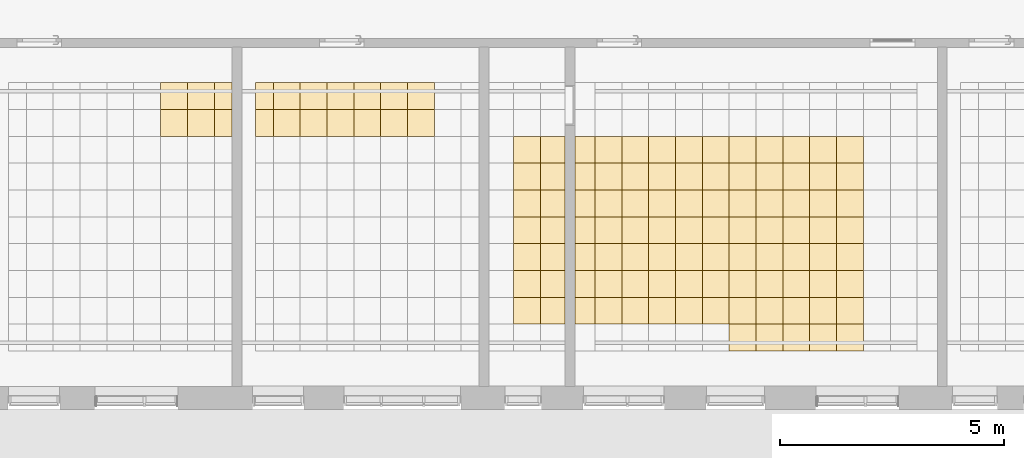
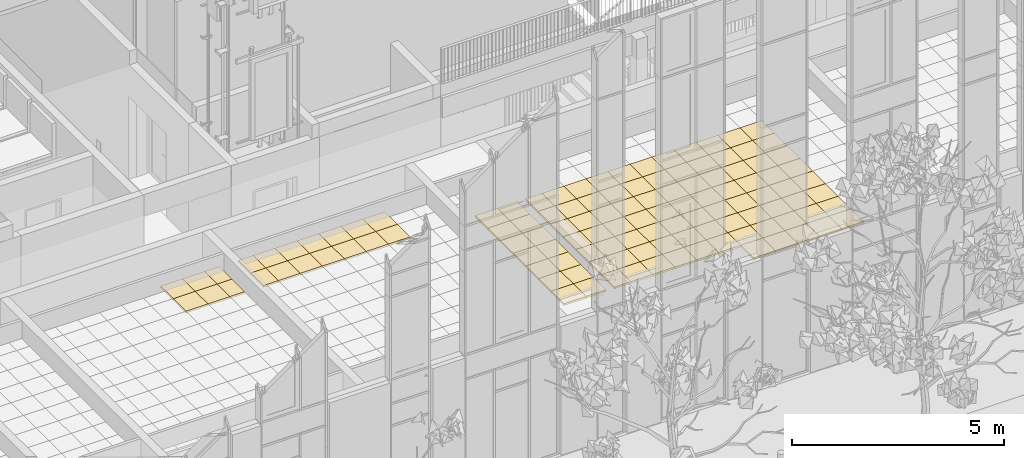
# One storey, part 190 of 246: 116 coverings.
"""IFC2X3 building model written with IfcOpenShell, lengths in millimetres."""

from ifc_helpers import new_model, entity, si_unit, converted_unit, derived_unit, money_unit, direction, frame, origin_with_axes, place, context, subcontext, project, spatial, faceted_brep, material, material_list, type_object, element, save


model = new_model("IFC2X3")

# Units and contexts
model_context = context("Model", 3, precision=0.01, world=origin_with_axes(), true_north=direction((0.0, 1.0)))
body_context = subcontext(model_context, "Body", "Model", "MODEL_VIEW")
ifc_project = project(units=[si_unit("LENGTHUNIT", "METRE", prefix="MILLI"), si_unit("AREAUNIT", "SQUARE_METRE"), si_unit("VOLUMEUNIT", "CUBIC_METRE"), converted_unit("PLANEANGLEUNIT", "DEGREE", entity("IfcPlaneAngleMeasure", 0.0174532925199), si_unit("PLANEANGLEUNIT", "RADIAN"), dimensions=[0, 0, 0, 0, 0, 0, 0]), si_unit("SOLIDANGLEUNIT", "STERADIAN"), money_unit("EUR"), converted_unit("TIMEUNIT", "Year", entity("IfcTimeMeasure", 31556926.0), si_unit("TIMEUNIT", "SECOND"), dimensions=[0, 0, 1, 0, 0, 0, 0]), si_unit("MASSUNIT", "GRAM", prefix="KILO"), si_unit("THERMODYNAMICTEMPERATUREUNIT", "DEGREE_CELSIUS"), si_unit("LUMINOUSINTENSITYUNIT", "LUMEN"), si_unit("ENERGYUNIT", "JOULE", prefix="MEGA"), derived_unit("THERMALCONDUCTANCEUNIT", [(si_unit("POWERUNIT", "WATT"), 1), (si_unit("LENGTHUNIT", "METRE"), -1), (si_unit("THERMODYNAMICTEMPERATUREUNIT", "KELVIN"), -1)]), derived_unit("SPECIFICHEATCAPACITYUNIT", [(si_unit("ENERGYUNIT", "JOULE"), 1), (si_unit("MASSUNIT", "GRAM", prefix="KILO"), -1), (si_unit("THERMODYNAMICTEMPERATUREUNIT", "KELVIN"), -1)]), derived_unit("MASSDENSITYUNIT", [(si_unit("MASSUNIT", "GRAM", prefix="KILO"), 1), (si_unit("VOLUMEUNIT", "CUBIC_METRE"), -1)])], contexts=[model_context])

# Site, building, storey
site_placement = place(None, origin_with_axes())
site = spatial("IfcSite", under=ifc_project, at=site_placement, Name="L.Koidula tn 11b", CompositionType="ELEMENT")
building_placement = place(site_placement, origin_with_axes())
building = spatial("IfcBuilding", under=site, at=building_placement, Name="Rakvere Riigigümnaasium", CompositionType="ELEMENT")
storey_placement = place(building_placement, origin_with_axes())
storey = spatial("IfcBuildingStorey", under=building, at=storey_placement, Name="1.korrus 0,00", CompositionType="ELEMENT", Elevation=0.0)

# Coverings
ifc_material_1 = material(Name="Karkass")
ifc_material_2 = material(Name="Kipsplaat")
ifc_material_list = material_list([ifc_material_1, ifc_material_2])
covering_type = type_object("IfcCoveringType", Name="SA-LV-Kips-moodul 55", PredefinedType="CEILING")
for number, where, z_axis, x_axis, name in (
    (1, (51339.9766386, 6890.4544728, 2750.0), (0.0, 0.0, 1.0), (1.0, 0.0, 0.0), "L-03"),
    (2, (51339.9766386, 10490.4544728, 2750.0), (0.0, 0.0, 1.0), (1.0, 0.0, 0.0), "L-03"),
    (3, (51339.9766386, 9890.4544728, 2750.0), (0.0, 0.0, 1.0), (1.0, 0.0, 0.0), "L-03"),
    (4, (51339.9766386, 9290.4544728, 2750.0), (0.0, 0.0, 1.0), (1.0, 0.0, 0.0), "L-03"),
    (5, (51339.9766386, 8690.4544728, 2750.0), (0.0, 0.0, 1.0), (1.0, 0.0, 0.0), "L-03"),
    (6, (51339.9766386, 8090.4544728, 2750.0), (0.0, 0.0, 1.0), (1.0, 0.0, 0.0), "L-03"),
    (7, (51339.9766386, 7490.4544728, 2750.0), (0.0, 0.0, 1.0), (1.0, 0.0, 0.0), "L-03"),
):
    element("IfcCovering", number, at=place(storey_placement, frame(where, z_axis=z_axis, x_axis=x_axis)), inside=storey, type_object=covering_type, material=ifc_material_list, Name=name, PredefinedType="CEILING", context=body_context, shape_type="Brep", body=[
        faceted_brep([(600.0, 0.0, 12.5), (600.0, 0.0, 54.5), (0.0, 0.0, 54.5), (0.0, 0.0, 12.5), (600.0, 600.0, 12.5), (600.0, 600.0, 54.5), (0.0, 600.0, 54.5), (0.0, 600.0, 12.5)], [[[0, 1, 2, 3]], [[4, 5, 1, 0]], [[2, 1, 5, 6]], [[3, 2, 6, 7]], [[3, 7, 4, 0]], [[7, 6, 5, 4]]]),
        faceted_brep([(0.0, 0.0, 0.0), (600.0, 0.0, 0.0), (600.0, 0.0, 12.5), (0.0, 0.0, 12.5), (0.0, 600.0, 0.0), (600.0, 600.0, 0.0), (600.0, 600.0, 12.5), (0.0, 600.0, 12.5)], [[[0, 1, 2, 3]], [[0, 4, 5, 1]], [[1, 5, 6, 2]], [[3, 2, 6, 7]], [[4, 0, 3, 7]], [[5, 4, 7, 6]]]),
    ])
for number, where, z_axis, x_axis, name in (
    (8, (51939.9766386, 6890.4544728, 2750.0), (0.0, 0.0, 1.0), (1.0, 0.0, 0.0), "L-03"),
    (9, (51939.9766386, 10490.4544728, 2750.0), (0.0, 0.0, 1.0), (1.0, 0.0, 0.0), "L-03"),
    (10, (51939.9766386, 9890.4544728, 2750.0), (0.0, 0.0, 1.0), (1.0, 0.0, 0.0), "L-03"),
    (11, (51939.9766386, 9290.4544728, 2750.0), (0.0, 0.0, 1.0), (1.0, 0.0, 0.0), "L-03"),
    (12, (51939.9766386, 8690.4544728, 2750.0), (0.0, 0.0, 1.0), (1.0, 0.0, 0.0), "L-03"),
    (13, (51939.9766386, 8090.4544728, 2750.0), (0.0, 0.0, 1.0), (1.0, 0.0, 0.0), "L-03"),
    (14, (51939.9766386, 7490.4544728, 2750.0), (0.0, 0.0, 1.0), (1.0, 0.0, 0.0), "L-03"),
):
    element("IfcCovering", number, at=place(storey_placement, frame(where, z_axis=z_axis, x_axis=x_axis)), inside=storey, type_object=covering_type, material=ifc_material_list, Name=name, PredefinedType="CEILING", context=body_context, shape_type="Brep", body=[
        faceted_brep([(550.0, 0.0, 12.5), (550.0, 0.0, 54.5), (0.0, 0.0, 54.5), (0.0, 0.0, 12.5), (550.0, 600.0, 12.5), (550.0, 600.0, 54.5), (0.0, 600.0, 54.5), (0.0, 600.0, 12.5)], [[[0, 1, 2, 3]], [[4, 5, 1, 0]], [[2, 1, 5, 6]], [[3, 2, 6, 7]], [[3, 7, 4, 0]], [[7, 6, 5, 4]]]),
        faceted_brep([(0.0, 0.0, 0.0), (550.0, 0.0, 0.0), (550.0, 0.0, 12.5), (0.0, 0.0, 12.5), (0.0, 600.0, 0.0), (550.0, 600.0, 0.0), (550.0, 600.0, 12.5), (0.0, 600.0, 12.5)], [[[0, 1, 2, 3]], [[0, 4, 5, 1]], [[1, 5, 6, 2]], [[3, 2, 6, 7]], [[4, 0, 3, 7]], [[5, 4, 7, 6]]]),
    ])
for number, where, z_axis, x_axis, name in (
    (15, (44050.0010098, 11090.4535941, 2750.0), (0.0, 0.0, 1.0), (1.0, 0.0, 0.0), "L-03"),
    (16, (44050.0010098, 11690.4535941, 2750.0), (0.0, 0.0, 1.0), (1.0, 0.0, 0.0), "L-03"),
):
    element("IfcCovering", number, at=place(storey_placement, frame(where, z_axis=z_axis, x_axis=x_axis)), inside=storey, type_object=covering_type, material=ifc_material_list, Name=name, PredefinedType="CEILING", context=body_context, shape_type="Brep", body=[
        faceted_brep([(599.999948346, 0.0, 12.5), (599.999948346, 0.0, 54.5), (0.0, 0.0, 54.5), (0.0, 0.0, 12.5), (599.999948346, 600.0, 12.5), (599.999948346, 600.0, 54.5), (0.0, 600.0, 54.5), (0.0, 600.0, 12.5)], [[[0, 1, 2, 3]], [[4, 5, 1, 0]], [[2, 1, 5, 6]], [[3, 2, 6, 7]], [[3, 7, 4, 0]], [[7, 6, 5, 4]]]),
        faceted_brep([(0.0, 0.0, 0.0), (599.999948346, 0.0, 0.0), (599.999948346, 0.0, 12.5), (0.0, 0.0, 12.5), (0.0, 600.0, 0.0), (599.999948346, 600.0, 0.0), (599.999948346, 600.0, 12.5), (0.0, 600.0, 12.5)], [[[0, 1, 2, 3]], [[0, 4, 5, 1]], [[1, 5, 6, 2]], [[3, 2, 6, 7]], [[4, 0, 3, 7]], [[5, 4, 7, 6]]]),
    ])
for number, where, z_axis, x_axis, name in (
    (17, (43450.0010098, 11090.4535941, 2750.0), (0.0, 0.0, 1.0), (1.0, 0.0, 0.0), "L-03"),
    (18, (43450.0010098, 11690.4535941, 2750.0), (0.0, 0.0, 1.0), (1.0, 0.0, 0.0), "L-03"),
):
    element("IfcCovering", number, at=place(storey_placement, frame(where, z_axis=z_axis, x_axis=x_axis)), inside=storey, type_object=covering_type, material=ifc_material_list, Name=name, PredefinedType="CEILING", context=body_context, shape_type="Brep", body=[
        faceted_brep([(600.0, 0.0, 12.5), (600.0, 0.0, 54.5), (0.0, 0.0, 54.5), (0.0, 0.0, 12.5), (600.0, 600.0, 12.5), (600.0, 600.0, 54.5), (0.0, 600.0, 54.5), (0.0, 600.0, 12.5)], [[[0, 1, 2, 3]], [[4, 5, 1, 0]], [[2, 1, 5, 6]], [[3, 2, 6, 7]], [[3, 7, 4, 0]], [[7, 6, 5, 4]]]),
        faceted_brep([(0.0, 0.0, 0.0), (600.0, 0.0, 0.0), (600.0, 0.0, 12.5), (0.0, 0.0, 12.5), (0.0, 600.0, 0.0), (600.0, 600.0, 0.0), (600.0, 600.0, 12.5), (0.0, 600.0, 12.5)], [[[0, 1, 2, 3]], [[0, 4, 5, 1]], [[1, 5, 6, 2]], [[3, 2, 6, 7]], [[4, 0, 3, 7]], [[5, 4, 7, 6]]]),
    ])
for number, where, z_axis, x_axis, name in (
    (19, (44650.0009582, 11090.4535941, 2750.0), (0.0, 0.0, 1.0), (1.0, 0.0, 0.0), "L-03"),
    (20, (44650.0009582, 11690.4535941, 2750.0), (0.0, 0.0, 1.0), (1.0, 0.0, 0.0), "L-03"),
):
    element("IfcCovering", number, at=place(storey_placement, frame(where, z_axis=z_axis, x_axis=x_axis)), inside=storey, type_object=covering_type, material=ifc_material_list, Name=name, PredefinedType="CEILING", context=body_context, shape_type="Brep", body=[
        faceted_brep([(399.999039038, 0.0, 12.5), (399.999039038, 0.0, 54.5), (0.0, 0.0, 54.5), (0.0, 0.0, 12.5), (399.999039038, 600.0, 12.5), (399.999039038, 600.0, 54.5), (0.0, 600.0, 54.5), (0.0, 600.0, 12.5)], [[[0, 1, 2, 3]], [[4, 5, 1, 0]], [[2, 1, 5, 6]], [[3, 2, 6, 7]], [[3, 7, 4, 0]], [[7, 6, 5, 4]]]),
        faceted_brep([(0.0, 0.0, 0.0), (399.999039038, 0.0, 0.0), (399.999039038, 0.0, 12.5), (0.0, 0.0, 12.5), (0.0, 600.0, 0.0), (399.999039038, 600.0, 0.0), (399.999039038, 600.0, 12.5), (0.0, 600.0, 12.5)], [[[0, 1, 2, 3]], [[0, 4, 5, 1]], [[1, 5, 6, 2]], [[3, 2, 6, 7]], [[4, 0, 3, 7]], [[5, 4, 7, 6]]]),
    ])
for number, where, z_axis, x_axis, name in (
    (21, (45969.6842448, 11090.4535941, 2750.0), (0.0, 0.0, 1.0), (1.0, 0.0, 0.0), "L-03"),
    (22, (45969.6842448, 11690.4535941, 2750.0), (0.0, 0.0, 1.0), (1.0, 0.0, 0.0), "L-03"),
):
    element("IfcCovering", number, at=place(storey_placement, frame(where, z_axis=z_axis, x_axis=x_axis)), inside=storey, type_object=covering_type, material=ifc_material_list, Name=name, PredefinedType="CEILING", context=body_context, shape_type="Brep", body=[
        faceted_brep([(599.999948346, 0.0, 12.5), (599.999948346, 0.0, 54.5), (0.0, 0.0, 54.5), (0.0, 0.0, 12.5), (599.999948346, 600.0, 12.5), (599.999948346, 600.0, 54.5), (0.0, 600.0, 54.5), (0.0, 600.0, 12.5)], [[[0, 1, 2, 3]], [[4, 5, 1, 0]], [[2, 1, 5, 6]], [[3, 2, 6, 7]], [[3, 7, 4, 0]], [[7, 6, 5, 4]]]),
        faceted_brep([(0.0, 0.0, 0.0), (599.999948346, 0.0, 0.0), (599.999948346, 0.0, 12.5), (0.0, 0.0, 12.5), (0.0, 600.0, 0.0), (599.999948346, 600.0, 0.0), (599.999948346, 600.0, 12.5), (0.0, 600.0, 12.5)], [[[0, 1, 2, 3]], [[0, 4, 5, 1]], [[1, 5, 6, 2]], [[3, 2, 6, 7]], [[4, 0, 3, 7]], [[5, 4, 7, 6]]]),
    ])
for number, where, z_axis, x_axis, name in (
    (23, (45569.6830772, 11090.4535941, 2750.0), (0.0, 0.0, 1.0), (1.0, 0.0, 0.0), "L-03"),
    (24, (45569.6830772, 11690.4535941, 2750.0), (0.0, 0.0, 1.0), (1.0, 0.0, 0.0), "L-03"),
):
    element("IfcCovering", number, at=place(storey_placement, frame(where, z_axis=z_axis, x_axis=x_axis)), inside=storey, type_object=covering_type, material=ifc_material_list, Name=name, PredefinedType="CEILING", context=body_context, shape_type="Brep", body=[
        faceted_brep([(400.001167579, 0.0, 12.5), (400.001167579, 0.0, 54.5), (0.0, 0.0, 54.5), (0.0, 0.0, 12.5), (400.001167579, 600.0, 12.5), (400.001167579, 600.0, 54.5), (0.0, 600.0, 54.5), (0.0, 600.0, 12.5)], [[[0, 1, 2, 3]], [[4, 5, 1, 0]], [[2, 1, 5, 6]], [[3, 2, 6, 7]], [[3, 7, 4, 0]], [[7, 6, 5, 4]]]),
        faceted_brep([(0.0, 0.0, 0.0), (400.001167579, 0.0, 0.0), (400.001167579, 0.0, 12.5), (0.0, 0.0, 12.5), (0.0, 600.0, 0.0), (400.001167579, 600.0, 0.0), (400.001167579, 600.0, 12.5), (0.0, 600.0, 12.5)], [[[0, 1, 2, 3]], [[0, 4, 5, 1]], [[1, 5, 6, 2]], [[3, 2, 6, 7]], [[4, 0, 3, 7]], [[5, 4, 7, 6]]]),
    ])
for number, where, z_axis, x_axis, name in (
    (25, (47169.6841932, 11090.4535941, 2750.0), (0.0, 0.0, 1.0), (1.0, 0.0, 0.0), "L-03"),
    (26, (47169.6841932, 11690.4535941, 2750.0), (0.0, 0.0, 1.0), (1.0, 0.0, 0.0), "L-03"),
):
    element("IfcCovering", number, at=place(storey_placement, frame(where, z_axis=z_axis, x_axis=x_axis)), inside=storey, type_object=covering_type, material=ifc_material_list, Name=name, PredefinedType="CEILING", context=body_context, shape_type="Brep", body=[
        faceted_brep([(599.999948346, 0.0, 12.5), (599.999948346, 0.0, 54.5), (0.0, 0.0, 54.5), (0.0, 0.0, 12.5), (599.999948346, 600.0, 12.5), (599.999948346, 600.0, 54.5), (0.0, 600.0, 54.5), (0.0, 600.0, 12.5)], [[[0, 1, 2, 3]], [[4, 5, 1, 0]], [[2, 1, 5, 6]], [[3, 2, 6, 7]], [[3, 7, 4, 0]], [[7, 6, 5, 4]]]),
        faceted_brep([(0.0, 0.0, 0.0), (599.999948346, 0.0, 0.0), (599.999948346, 0.0, 12.5), (0.0, 0.0, 12.5), (0.0, 600.0, 0.0), (599.999948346, 600.0, 0.0), (599.999948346, 600.0, 12.5), (0.0, 600.0, 12.5)], [[[0, 1, 2, 3]], [[0, 4, 5, 1]], [[1, 5, 6, 2]], [[3, 2, 6, 7]], [[4, 0, 3, 7]], [[5, 4, 7, 6]]]),
    ])
for number, where, z_axis, x_axis, name in (
    (27, (46569.6841932, 11090.4535941, 2750.0), (0.0, 0.0, 1.0), (1.0, 0.0, 0.0), "L-03"),
    (28, (46569.6841932, 11690.4535941, 2750.0), (0.0, 0.0, 1.0), (1.0, 0.0, 0.0), "L-03"),
):
    element("IfcCovering", number, at=place(storey_placement, frame(where, z_axis=z_axis, x_axis=x_axis)), inside=storey, type_object=covering_type, material=ifc_material_list, Name=name, PredefinedType="CEILING", context=body_context, shape_type="Brep", body=[
        faceted_brep([(600.0, 0.0, 12.5), (600.0, 0.0, 54.5), (0.0, 0.0, 54.5), (0.0, 0.0, 12.5), (600.0, 600.0, 12.5), (600.0, 600.0, 54.5), (0.0, 600.0, 54.5), (0.0, 600.0, 12.5)], [[[0, 1, 2, 3]], [[4, 5, 1, 0]], [[2, 1, 5, 6]], [[3, 2, 6, 7]], [[3, 7, 4, 0]], [[7, 6, 5, 4]]]),
        faceted_brep([(0.0, 0.0, 0.0), (600.0, 0.0, 0.0), (600.0, 0.0, 12.5), (0.0, 0.0, 12.5), (0.0, 600.0, 0.0), (600.0, 600.0, 0.0), (600.0, 600.0, 12.5), (0.0, 600.0, 12.5)], [[[0, 1, 2, 3]], [[0, 4, 5, 1]], [[1, 5, 6, 2]], [[3, 2, 6, 7]], [[4, 0, 3, 7]], [[5, 4, 7, 6]]]),
    ])
for number, where, z_axis, x_axis, name in (
    (29, (48369.6841415, 11090.4535941, 2750.0), (0.0, 0.0, 1.0), (1.0, 0.0, 0.0), "L-03"),
    (30, (48369.6841415, 11690.4535941, 2750.0), (0.0, 0.0, 1.0), (1.0, 0.0, 0.0), "L-03"),
):
    element("IfcCovering", number, at=place(storey_placement, frame(where, z_axis=z_axis, x_axis=x_axis)), inside=storey, type_object=covering_type, material=ifc_material_list, Name=name, PredefinedType="CEILING", context=body_context, shape_type="Brep", body=[
        faceted_brep([(599.999948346, 0.0, 12.5), (599.999948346, 0.0, 54.5), (0.0, 0.0, 54.5), (0.0, 0.0, 12.5), (599.999948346, 600.0, 12.5), (599.999948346, 600.0, 54.5), (0.0, 600.0, 54.5), (0.0, 600.0, 12.5)], [[[0, 1, 2, 3]], [[4, 5, 1, 0]], [[2, 1, 5, 6]], [[3, 2, 6, 7]], [[3, 7, 4, 0]], [[7, 6, 5, 4]]]),
        faceted_brep([(0.0, 0.0, 0.0), (599.999948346, 0.0, 0.0), (599.999948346, 0.0, 12.5), (0.0, 0.0, 12.5), (0.0, 600.0, 0.0), (599.999948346, 600.0, 0.0), (599.999948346, 600.0, 12.5), (0.0, 600.0, 12.5)], [[[0, 1, 2, 3]], [[0, 4, 5, 1]], [[1, 5, 6, 2]], [[3, 2, 6, 7]], [[4, 0, 3, 7]], [[5, 4, 7, 6]]]),
    ])
for number, where, z_axis, x_axis, name in (
    (31, (47769.6841415, 11090.4535941, 2750.0), (0.0, 0.0, 1.0), (1.0, 0.0, 0.0), "L-03"),
    (32, (47769.6841415, 11690.4535941, 2750.0), (0.0, 0.0, 1.0), (1.0, 0.0, 0.0), "L-03"),
    (33, (48969.6840899, 11090.4535941, 2750.0), (0.0, 0.0, 1.0), (1.0, 0.0, 0.0), "L-03"),
    (34, (48969.6840899, 11690.4535941, 2750.0), (0.0, 0.0, 1.0), (1.0, 0.0, 0.0), "L-03"),
):
    element("IfcCovering", number, at=place(storey_placement, frame(where, z_axis=z_axis, x_axis=x_axis)), inside=storey, type_object=covering_type, material=ifc_material_list, Name=name, PredefinedType="CEILING", context=body_context, shape_type="Brep", body=[
        faceted_brep([(600.0, 0.0, 12.5), (600.0, 0.0, 54.5), (0.0, 0.0, 54.5), (0.0, 0.0, 12.5), (600.0, 600.0, 12.5), (600.0, 600.0, 54.5), (0.0, 600.0, 54.5), (0.0, 600.0, 12.5)], [[[0, 1, 2, 3]], [[4, 5, 1, 0]], [[2, 1, 5, 6]], [[3, 2, 6, 7]], [[3, 7, 4, 0]], [[7, 6, 5, 4]]]),
        faceted_brep([(0.0, 0.0, 0.0), (600.0, 0.0, 0.0), (600.0, 0.0, 12.5), (0.0, 0.0, 12.5), (0.0, 600.0, 0.0), (600.0, 600.0, 0.0), (600.0, 600.0, 12.5), (0.0, 600.0, 12.5)], [[[0, 1, 2, 3]], [[0, 4, 5, 1]], [[1, 5, 6, 2]], [[3, 2, 6, 7]], [[4, 0, 3, 7]], [[5, 4, 7, 6]]]),
    ])
for number, where, z_axis, x_axis, name in (
    (35, (53159.6754629, 10490.4535941, 2750.0), (0.0, 0.0, 1.0), (1.0, 0.0, 0.0), "L-03"),
    (36, (53159.6754629, 9890.45359412, 2750.0), (0.0, 0.0, 1.0), (1.0, 0.0, 0.0), "L-03"),
    (37, (53159.6754629, 9290.45359412, 2750.0), (0.0, 0.0, 1.0), (1.0, 0.0, 0.0), "L-03"),
    (38, (53159.6754629, 8690.45359412, 2750.0), (0.0, 0.0, 1.0), (1.0, 0.0, 0.0), "L-03"),
    (39, (53159.6754629, 8090.45359412, 2750.0), (0.0, 0.0, 1.0), (1.0, 0.0, 0.0), "L-03"),
    (40, (53159.6754629, 7490.45359412, 2750.0), (0.0, 0.0, 1.0), (1.0, 0.0, 0.0), "L-03"),
    (41, (53159.6754629, 6890.45359412, 2750.0), (0.0, 0.0, 1.0), (1.0, 0.0, 0.0), "L-03"),
):
    element("IfcCovering", number, at=place(storey_placement, frame(where, z_axis=z_axis, x_axis=x_axis)), inside=storey, type_object=covering_type, material=ifc_material_list, Name=name, PredefinedType="CEILING", context=body_context, shape_type="Brep", body=[
        faceted_brep([(599.999948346, 0.0, 12.5), (599.999948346, 0.0, 54.5), (0.0, 0.0, 54.5), (0.0, 0.0, 12.5), (599.999948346, 600.0, 12.5), (599.999948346, 600.0, 54.5), (0.0, 600.0, 54.5), (0.0, 600.0, 12.5)], [[[0, 1, 2, 3]], [[4, 5, 1, 0]], [[2, 1, 5, 6]], [[3, 2, 6, 7]], [[3, 7, 4, 0]], [[7, 6, 5, 4]]]),
        faceted_brep([(0.0, 0.0, 0.0), (599.999948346, 0.0, 0.0), (599.999948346, 0.0, 12.5), (0.0, 0.0, 12.5), (0.0, 600.0, 0.0), (599.999948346, 600.0, 0.0), (599.999948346, 600.0, 12.5), (0.0, 600.0, 12.5)], [[[0, 1, 2, 3]], [[0, 4, 5, 1]], [[1, 5, 6, 2]], [[3, 2, 6, 7]], [[4, 0, 3, 7]], [[5, 4, 7, 6]]]),
    ])
for number, where, z_axis, x_axis, name in (
    (42, (52709.9766386, 7490.45359412, 2750.0), (0.0, 0.0, 1.0), (1.0, 0.0, 0.0), "L-03"),
    (43, (52709.9766386, 8090.45359412, 2750.0), (0.0, 0.0, 1.0), (1.0, 0.0, 0.0), "L-03"),
    (44, (52709.9766386, 8690.45359412, 2750.0), (0.0, 0.0, 1.0), (1.0, 0.0, 0.0), "L-03"),
    (45, (52709.9766386, 9290.45359412, 2750.0), (0.0, 0.0, 1.0), (1.0, 0.0, 0.0), "L-03"),
    (46, (52709.9766386, 9890.45359412, 2750.0), (0.0, 0.0, 1.0), (1.0, 0.0, 0.0), "L-03"),
    (47, (52709.9766386, 10490.4535941, 2750.0), (0.0, 0.0, 1.0), (1.0, 0.0, 0.0), "L-03"),
    (48, (52709.9766386, 6890.45359412, 2750.0), (0.0, 0.0, 1.0), (1.0, 0.0, 0.0), "L-03"),
):
    element("IfcCovering", number, at=place(storey_placement, frame(where, z_axis=z_axis, x_axis=x_axis)), inside=storey, type_object=covering_type, material=ifc_material_list, Name=name, PredefinedType="CEILING", context=body_context, shape_type="Brep", body=[
        faceted_brep([(449.698824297, 0.0, 12.5), (449.698824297, 0.0, 54.5), (0.0, 0.0, 54.5), (0.0, 0.0, 12.5), (449.698824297, 600.0, 12.5), (449.698824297, 600.0, 54.5), (0.0, 600.0, 54.5), (0.0, 600.0, 12.5)], [[[0, 1, 2, 3]], [[4, 5, 1, 0]], [[2, 1, 5, 6]], [[3, 2, 6, 7]], [[3, 7, 4, 0]], [[7, 6, 5, 4]]]),
        faceted_brep([(0.0, 0.0, 0.0), (449.698824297, 0.0, 0.0), (449.698824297, 0.0, 12.5), (0.0, 0.0, 12.5), (0.0, 600.0, 0.0), (449.698824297, 600.0, 0.0), (449.698824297, 600.0, 12.5), (0.0, 600.0, 12.5)], [[[0, 1, 2, 3]], [[0, 4, 5, 1]], [[1, 5, 6, 2]], [[3, 2, 6, 7]], [[4, 0, 3, 7]], [[5, 4, 7, 6]]]),
    ])
for number, where, z_axis, x_axis, name in (
    (49, (54359.6754112, 10490.4535941, 2750.0), (0.0, 0.0, 1.0), (1.0, 0.0, 0.0), "L-03"),
    (50, (54359.6754112, 9890.45359412, 2750.0), (0.0, 0.0, 1.0), (1.0, 0.0, 0.0), "L-03"),
    (51, (54359.6754112, 9290.45359412, 2750.0), (0.0, 0.0, 1.0), (1.0, 0.0, 0.0), "L-03"),
    (52, (54359.6754112, 8690.45359412, 2750.0), (0.0, 0.0, 1.0), (1.0, 0.0, 0.0), "L-03"),
    (53, (54359.6754112, 8090.45359412, 2750.0), (0.0, 0.0, 1.0), (1.0, 0.0, 0.0), "L-03"),
    (54, (54359.6754112, 7490.45359412, 2750.0), (0.0, 0.0, 1.0), (1.0, 0.0, 0.0), "L-03"),
    (55, (54359.6754112, 6890.45359412, 2750.0), (0.0, 0.0, 1.0), (1.0, 0.0, 0.0), "L-03"),
):
    element("IfcCovering", number, at=place(storey_placement, frame(where, z_axis=z_axis, x_axis=x_axis)), inside=storey, type_object=covering_type, material=ifc_material_list, Name=name, PredefinedType="CEILING", context=body_context, shape_type="Brep", body=[
        faceted_brep([(599.999948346, 0.0, 12.5), (599.999948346, 0.0, 54.5), (0.0, 0.0, 54.5), (0.0, 0.0, 12.5), (599.999948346, 600.0, 12.5), (599.999948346, 600.0, 54.5), (0.0, 600.0, 54.5), (0.0, 600.0, 12.5)], [[[0, 1, 2, 3]], [[4, 5, 1, 0]], [[2, 1, 5, 6]], [[3, 2, 6, 7]], [[3, 7, 4, 0]], [[7, 6, 5, 4]]]),
        faceted_brep([(0.0, 0.0, 0.0), (599.999948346, 0.0, 0.0), (599.999948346, 0.0, 12.5), (0.0, 0.0, 12.5), (0.0, 600.0, 0.0), (599.999948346, 600.0, 0.0), (599.999948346, 600.0, 12.5), (0.0, 600.0, 12.5)], [[[0, 1, 2, 3]], [[0, 4, 5, 1]], [[1, 5, 6, 2]], [[3, 2, 6, 7]], [[4, 0, 3, 7]], [[5, 4, 7, 6]]]),
    ])
for number, where, z_axis, x_axis, name in (
    (56, (53759.6754112, 7490.45359412, 2750.0), (0.0, 0.0, 1.0), (1.0, 0.0, 0.0), "L-03"),
    (57, (53759.6754112, 8090.45359412, 2750.0), (0.0, 0.0, 1.0), (1.0, 0.0, 0.0), "L-03"),
    (58, (53759.6754112, 8690.45359412, 2750.0), (0.0, 0.0, 1.0), (1.0, 0.0, 0.0), "L-03"),
    (59, (53759.6754112, 9290.45359412, 2750.0), (0.0, 0.0, 1.0), (1.0, 0.0, 0.0), "L-03"),
    (60, (53759.6754112, 9890.45359412, 2750.0), (0.0, 0.0, 1.0), (1.0, 0.0, 0.0), "L-03"),
    (61, (53759.6754112, 10490.4535941, 2750.0), (0.0, 0.0, 1.0), (1.0, 0.0, 0.0), "L-03"),
    (62, (53759.6754112, 6890.45359412, 2750.0), (0.0, 0.0, 1.0), (1.0, 0.0, 0.0), "L-03"),
):
    element("IfcCovering", number, at=place(storey_placement, frame(where, z_axis=z_axis, x_axis=x_axis)), inside=storey, type_object=covering_type, material=ifc_material_list, Name=name, PredefinedType="CEILING", context=body_context, shape_type="Brep", body=[
        faceted_brep([(600.0, 0.0, 12.5), (600.0, 0.0, 54.5), (0.0, 0.0, 54.5), (0.0, 0.0, 12.5), (600.0, 600.0, 12.5), (600.0, 600.0, 54.5), (0.0, 600.0, 54.5), (0.0, 600.0, 12.5)], [[[0, 1, 2, 3]], [[4, 5, 1, 0]], [[2, 1, 5, 6]], [[3, 2, 6, 7]], [[3, 7, 4, 0]], [[7, 6, 5, 4]]]),
        faceted_brep([(0.0, 0.0, 0.0), (600.0, 0.0, 0.0), (600.0, 0.0, 12.5), (0.0, 0.0, 12.5), (0.0, 600.0, 0.0), (600.0, 600.0, 0.0), (600.0, 600.0, 12.5), (0.0, 600.0, 12.5)], [[[0, 1, 2, 3]], [[0, 4, 5, 1]], [[1, 5, 6, 2]], [[3, 2, 6, 7]], [[4, 0, 3, 7]], [[5, 4, 7, 6]]]),
    ])
for number, where, z_axis, x_axis, name in (
    (63, (55559.6753595, 10490.4535941, 2750.0), (0.0, 0.0, 1.0), (1.0, 0.0, 0.0), "L-03"),
    (64, (55559.6753595, 9890.45359412, 2750.0), (0.0, 0.0, 1.0), (1.0, 0.0, 0.0), "L-03"),
    (65, (55559.6753595, 9290.45359412, 2750.0), (0.0, 0.0, 1.0), (1.0, 0.0, 0.0), "L-03"),
    (66, (55559.6753595, 8690.45359412, 2750.0), (0.0, 0.0, 1.0), (1.0, 0.0, 0.0), "L-03"),
    (67, (55559.6753595, 8090.45359412, 2750.0), (0.0, 0.0, 1.0), (1.0, 0.0, 0.0), "L-03"),
    (68, (55559.6753595, 7490.45359412, 2750.0), (0.0, 0.0, 1.0), (1.0, 0.0, 0.0), "L-03"),
    (69, (55559.6753595, 6890.45359412, 2750.0), (0.0, 0.0, 1.0), (1.0, 0.0, 0.0), "L-03"),
):
    element("IfcCovering", number, at=place(storey_placement, frame(where, z_axis=z_axis, x_axis=x_axis)), inside=storey, type_object=covering_type, material=ifc_material_list, Name=name, PredefinedType="CEILING", context=body_context, shape_type="Brep", body=[
        faceted_brep([(599.999948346, 0.0, 12.5), (599.999948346, 0.0, 54.5), (0.0, 0.0, 54.5), (0.0, 0.0, 12.5), (599.999948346, 600.0, 12.5), (599.999948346, 600.0, 54.5), (0.0, 600.0, 54.5), (0.0, 600.0, 12.5)], [[[0, 1, 2, 3]], [[4, 5, 1, 0]], [[2, 1, 5, 6]], [[3, 2, 6, 7]], [[3, 7, 4, 0]], [[7, 6, 5, 4]]]),
        faceted_brep([(0.0, 0.0, 0.0), (599.999948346, 0.0, 0.0), (599.999948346, 0.0, 12.5), (0.0, 0.0, 12.5), (0.0, 600.0, 0.0), (599.999948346, 600.0, 0.0), (599.999948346, 600.0, 12.5), (0.0, 600.0, 12.5)], [[[0, 1, 2, 3]], [[0, 4, 5, 1]], [[1, 5, 6, 2]], [[3, 2, 6, 7]], [[4, 0, 3, 7]], [[5, 4, 7, 6]]]),
    ])
for number, where, z_axis, x_axis, name in (
    (70, (54959.6753595, 7490.45359412, 2750.0), (0.0, 0.0, 1.0), (1.0, 0.0, 0.0), "L-03"),
    (71, (54959.6753595, 8090.45359412, 2750.0), (0.0, 0.0, 1.0), (1.0, 0.0, 0.0), "L-03"),
    (72, (54959.6753595, 8690.45359412, 2750.0), (0.0, 0.0, 1.0), (1.0, 0.0, 0.0), "L-03"),
    (73, (54959.6753595, 9290.45359412, 2750.0), (0.0, 0.0, 1.0), (1.0, 0.0, 0.0), "L-03"),
    (74, (54959.6753595, 9890.45359412, 2750.0), (0.0, 0.0, 1.0), (1.0, 0.0, 0.0), "L-03"),
    (75, (54959.6753595, 10490.4535941, 2750.0), (0.0, 0.0, 1.0), (1.0, 0.0, 0.0), "L-03"),
    (76, (54959.6753595, 6890.45359412, 2750.0), (0.0, 0.0, 1.0), (1.0, 0.0, 0.0), "L-03"),
):
    element("IfcCovering", number, at=place(storey_placement, frame(where, z_axis=z_axis, x_axis=x_axis)), inside=storey, type_object=covering_type, material=ifc_material_list, Name=name, PredefinedType="CEILING", context=body_context, shape_type="Brep", body=[
        faceted_brep([(600.0, 0.0, 12.5), (600.0, 0.0, 54.5), (0.0, 0.0, 54.5), (0.0, 0.0, 12.5), (600.0, 600.0, 12.5), (600.0, 600.0, 54.5), (0.0, 600.0, 54.5), (0.0, 600.0, 12.5)], [[[0, 1, 2, 3]], [[4, 5, 1, 0]], [[2, 1, 5, 6]], [[3, 2, 6, 7]], [[3, 7, 4, 0]], [[7, 6, 5, 4]]]),
        faceted_brep([(0.0, 0.0, 0.0), (600.0, 0.0, 0.0), (600.0, 0.0, 12.5), (0.0, 0.0, 12.5), (0.0, 600.0, 0.0), (600.0, 600.0, 0.0), (600.0, 600.0, 12.5), (0.0, 600.0, 12.5)], [[[0, 1, 2, 3]], [[0, 4, 5, 1]], [[1, 5, 6, 2]], [[3, 2, 6, 7]], [[4, 0, 3, 7]], [[5, 4, 7, 6]]]),
    ])
for number, where, z_axis, x_axis, name in (
    (77, (56759.6753079, 10490.4535941, 2750.0), (0.0, 0.0, 1.0), (1.0, 0.0, 0.0), "L-03"),
    (78, (56759.6753079, 9890.45359412, 2750.0), (0.0, 0.0, 1.0), (1.0, 0.0, 0.0), "L-03"),
    (79, (56759.6753079, 9290.45359412, 2750.0), (0.0, 0.0, 1.0), (1.0, 0.0, 0.0), "L-03"),
    (80, (56759.6753079, 8690.45359412, 2750.0), (0.0, 0.0, 1.0), (1.0, 0.0, 0.0), "L-03"),
    (81, (56759.6753079, 8090.45359412, 2750.0), (0.0, 0.0, 1.0), (1.0, 0.0, 0.0), "L-03"),
    (82, (56759.6753079, 7490.45359412, 2750.0), (0.0, 0.0, 1.0), (1.0, 0.0, 0.0), "L-03"),
    (83, (56759.6753079, 6290.45359412, 2750.0), (0.0, 0.0, 1.0), (1.0, 0.0, 0.0), "L-03"),
    (84, (56759.6753079, 6890.45359412, 2750.0), (0.0, 0.0, 1.0), (1.0, 0.0, 0.0), "L-03"),
):
    element("IfcCovering", number, at=place(storey_placement, frame(where, z_axis=z_axis, x_axis=x_axis)), inside=storey, type_object=covering_type, material=ifc_material_list, Name=name, PredefinedType="CEILING", context=body_context, shape_type="Brep", body=[
        faceted_brep([(599.999948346, 0.0, 12.5), (599.999948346, 0.0, 54.5), (0.0, 0.0, 54.5), (0.0, 0.0, 12.5), (599.999948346, 600.0, 12.5), (599.999948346, 600.0, 54.5), (0.0, 600.0, 54.5), (0.0, 600.0, 12.5)], [[[0, 1, 2, 3]], [[4, 5, 1, 0]], [[2, 1, 5, 6]], [[3, 2, 6, 7]], [[3, 7, 4, 0]], [[7, 6, 5, 4]]]),
        faceted_brep([(0.0, 0.0, 0.0), (599.999948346, 0.0, 0.0), (599.999948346, 0.0, 12.5), (0.0, 0.0, 12.5), (0.0, 600.0, 0.0), (599.999948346, 600.0, 0.0), (599.999948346, 600.0, 12.5), (0.0, 600.0, 12.5)], [[[0, 1, 2, 3]], [[0, 4, 5, 1]], [[1, 5, 6, 2]], [[3, 2, 6, 7]], [[4, 0, 3, 7]], [[5, 4, 7, 6]]]),
    ])
for number, where, z_axis, x_axis, name in (
    (85, (56159.6753079, 7490.45359412, 2750.0), (0.0, 0.0, 1.0), (1.0, 0.0, 0.0), "L-03"),
    (86, (56159.6753079, 8090.45359412, 2750.0), (0.0, 0.0, 1.0), (1.0, 0.0, 0.0), "L-03"),
    (87, (56159.6753079, 8690.45359412, 2750.0), (0.0, 0.0, 1.0), (1.0, 0.0, 0.0), "L-03"),
    (88, (56159.6753079, 9290.45359412, 2750.0), (0.0, 0.0, 1.0), (1.0, 0.0, 0.0), "L-03"),
    (89, (56159.6753079, 9890.45359412, 2750.0), (0.0, 0.0, 1.0), (1.0, 0.0, 0.0), "L-03"),
    (90, (56159.6753079, 10490.4535941, 2750.0), (0.0, 0.0, 1.0), (1.0, 0.0, 0.0), "L-03"),
    (91, (56159.6753079, 6290.45359412, 2750.0), (0.0, 0.0, 1.0), (1.0, 0.0, 0.0), "L-03"),
    (92, (56159.6753079, 6890.45359412, 2750.0), (0.0, 0.0, 1.0), (1.0, 0.0, 0.0), "L-03"),
):
    element("IfcCovering", number, at=place(storey_placement, frame(where, z_axis=z_axis, x_axis=x_axis)), inside=storey, type_object=covering_type, material=ifc_material_list, Name=name, PredefinedType="CEILING", context=body_context, shape_type="Brep", body=[
        faceted_brep([(600.0, 0.0, 12.5), (600.0, 0.0, 54.5), (0.0, 0.0, 54.5), (0.0, 0.0, 12.5), (600.0, 600.0, 12.5), (600.0, 600.0, 54.5), (0.0, 600.0, 54.5), (0.0, 600.0, 12.5)], [[[0, 1, 2, 3]], [[4, 5, 1, 0]], [[2, 1, 5, 6]], [[3, 2, 6, 7]], [[3, 7, 4, 0]], [[7, 6, 5, 4]]]),
        faceted_brep([(0.0, 0.0, 0.0), (600.0, 0.0, 0.0), (600.0, 0.0, 12.5), (0.0, 0.0, 12.5), (0.0, 600.0, 0.0), (600.0, 600.0, 0.0), (600.0, 600.0, 12.5), (0.0, 600.0, 12.5)], [[[0, 1, 2, 3]], [[0, 4, 5, 1]], [[1, 5, 6, 2]], [[3, 2, 6, 7]], [[4, 0, 3, 7]], [[5, 4, 7, 6]]]),
    ])
for number, where, z_axis, x_axis, name in (
    (93, (57959.6752562, 10490.4535941, 2750.0), (0.0, 0.0, 1.0), (1.0, 0.0, 0.0), "L-03"),
    (94, (57959.6752562, 9890.45359412, 2750.0), (0.0, 0.0, 1.0), (1.0, 0.0, 0.0), "L-03"),
    (95, (57959.6752562, 9290.45359412, 2750.0), (0.0, 0.0, 1.0), (1.0, 0.0, 0.0), "L-03"),
    (96, (57959.6752562, 8690.45359412, 2750.0), (0.0, 0.0, 1.0), (1.0, 0.0, 0.0), "L-03"),
    (97, (57959.6752562, 8090.45359412, 2750.0), (0.0, 0.0, 1.0), (1.0, 0.0, 0.0), "L-03"),
    (98, (57959.6752562, 7490.45359412, 2750.0), (0.0, 0.0, 1.0), (1.0, 0.0, 0.0), "L-03"),
    (99, (57959.6752562, 6290.45359412, 2750.0), (0.0, 0.0, 1.0), (1.0, 0.0, 0.0), "L-03"),
    (100, (57959.6752562, 6890.45359412, 2750.0), (0.0, 0.0, 1.0), (1.0, 0.0, 0.0), "L-03"),
):
    element("IfcCovering", number, at=place(storey_placement, frame(where, z_axis=z_axis, x_axis=x_axis)), inside=storey, type_object=covering_type, material=ifc_material_list, Name=name, PredefinedType="CEILING", context=body_context, shape_type="Brep", body=[
        faceted_brep([(599.999948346, 0.0, 12.5), (599.999948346, 0.0, 54.5), (0.0, 0.0, 54.5), (0.0, 0.0, 12.5), (599.999948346, 600.0, 12.5), (599.999948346, 600.0, 54.5), (0.0, 600.0, 54.5), (0.0, 600.0, 12.5)], [[[0, 1, 2, 3]], [[4, 5, 1, 0]], [[2, 1, 5, 6]], [[3, 2, 6, 7]], [[3, 7, 4, 0]], [[7, 6, 5, 4]]]),
        faceted_brep([(0.0, 0.0, 0.0), (599.999948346, 0.0, 0.0), (599.999948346, 0.0, 12.5), (0.0, 0.0, 12.5), (0.0, 600.0, 0.0), (599.999948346, 600.0, 0.0), (599.999948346, 600.0, 12.5), (0.0, 600.0, 12.5)], [[[0, 1, 2, 3]], [[0, 4, 5, 1]], [[1, 5, 6, 2]], [[3, 2, 6, 7]], [[4, 0, 3, 7]], [[5, 4, 7, 6]]]),
    ])
for number, where, z_axis, x_axis, name in (
    (101, (57359.6752562, 7490.45359412, 2750.0), (0.0, 0.0, 1.0), (1.0, 0.0, 0.0), "L-03"),
    (102, (57359.6752562, 8090.45359412, 2750.0), (0.0, 0.0, 1.0), (1.0, 0.0, 0.0), "L-03"),
    (103, (57359.6752562, 8690.45359412, 2750.0), (0.0, 0.0, 1.0), (1.0, 0.0, 0.0), "L-03"),
    (104, (57359.6752562, 9290.45359412, 2750.0), (0.0, 0.0, 1.0), (1.0, 0.0, 0.0), "L-03"),
    (105, (57359.6752562, 9890.45359412, 2750.0), (0.0, 0.0, 1.0), (1.0, 0.0, 0.0), "L-03"),
    (106, (57359.6752562, 10490.4535941, 2750.0), (0.0, 0.0, 1.0), (1.0, 0.0, 0.0), "L-03"),
    (107, (57359.6752562, 6290.45359412, 2750.0), (0.0, 0.0, 1.0), (1.0, 0.0, 0.0), "L-03"),
    (108, (57359.6752562, 6890.45359412, 2750.0), (0.0, 0.0, 1.0), (1.0, 0.0, 0.0), "L-03"),
    (109, (58559.6752046, 7490.45359412, 2750.0), (0.0, 0.0, 1.0), (1.0, 0.0, 0.0), "L-03"),
    (110, (58559.6752046, 8090.45359412, 2750.0), (0.0, 0.0, 1.0), (1.0, 0.0, 0.0), "L-03"),
    (111, (58559.6752046, 8690.45359412, 2750.0), (0.0, 0.0, 1.0), (1.0, 0.0, 0.0), "L-03"),
    (112, (58559.6752046, 9290.45359412, 2750.0), (0.0, 0.0, 1.0), (1.0, 0.0, 0.0), "L-03"),
    (113, (58559.6752046, 9890.45359412, 2750.0), (0.0, 0.0, 1.0), (1.0, 0.0, 0.0), "L-03"),
    (114, (58559.6752046, 10490.4535941, 2750.0), (0.0, 0.0, 1.0), (1.0, 0.0, 0.0), "L-03"),
    (115, (58559.6752046, 6290.45359412, 2750.0), (0.0, 0.0, 1.0), (1.0, 0.0, 0.0), "L-03"),
    (116, (58559.6752046, 6890.45359412, 2750.0), (0.0, 0.0, 1.0), (1.0, 0.0, 0.0), "L-03"),
):
    element("IfcCovering", number, at=place(storey_placement, frame(where, z_axis=z_axis, x_axis=x_axis)), inside=storey, type_object=covering_type, material=ifc_material_list, Name=name, PredefinedType="CEILING", context=body_context, shape_type="Brep", body=[
        faceted_brep([(600.0, 0.0, 12.5), (600.0, 0.0, 54.5), (0.0, 0.0, 54.5), (0.0, 0.0, 12.5), (600.0, 600.0, 12.5), (600.0, 600.0, 54.5), (0.0, 600.0, 54.5), (0.0, 600.0, 12.5)], [[[0, 1, 2, 3]], [[4, 5, 1, 0]], [[2, 1, 5, 6]], [[3, 2, 6, 7]], [[3, 7, 4, 0]], [[7, 6, 5, 4]]]),
        faceted_brep([(0.0, 0.0, 0.0), (600.0, 0.0, 0.0), (600.0, 0.0, 12.5), (0.0, 0.0, 12.5), (0.0, 600.0, 0.0), (600.0, 600.0, 0.0), (600.0, 600.0, 12.5), (0.0, 600.0, 12.5)], [[[0, 1, 2, 3]], [[0, 4, 5, 1]], [[1, 5, 6, 2]], [[3, 2, 6, 7]], [[4, 0, 3, 7]], [[5, 4, 7, 6]]]),
    ])

save(model, "model.ifc")
